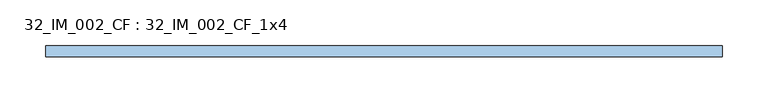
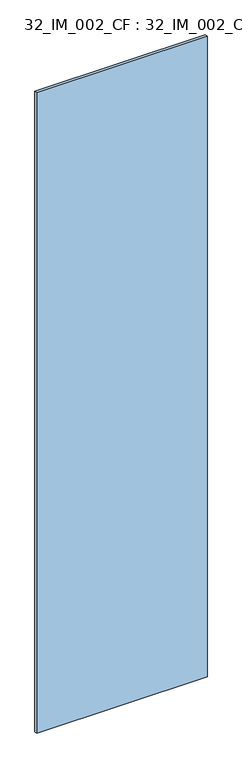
"""IFC4 building model written with IfcOpenShell, lengths in millimetres: window geometry, 32_IM_002_CF : 32_IM_002_CF_1x4."""

from ifc_helpers import new_model, si_unit, origin, origin_with_axes, place, context, project, spatial, polyline, outline, extrude, source, transform, mapped, element, save


def window_32_im_002_cf_32_im_002_cf_1x4_a56874b4(model_context):
    return source(origin(), model_context, "Body", "SweptSolid", [
        extrude(outline(polyline([(371.0, -6.0), (-371.0, -6.0), (-371.0, 6.0), (371.0, 6.0), (371.0, -6.0)])), origin_with_axes(), (0.0, 0.0, 1.0), 2945.0),
    ])


if __name__ == "__main__":
    model = new_model("IFC4")
    model_context = context("Model", 3, world=origin())
    ifc_project = project(units=[si_unit("LENGTHUNIT", "METRE", prefix="MILLI")], contexts=[model_context])
    site = spatial("IfcSite", under=ifc_project)
    building = spatial("IfcBuilding", under=site)
    placement = place(None, origin())
    window_32_im_002_cf_32_im_002_cf_1x4_shape = window_32_im_002_cf_32_im_002_cf_1x4_a56874b4(model_context)
    element("IfcWindow", 1, ObjectType="32_IM_002_CF : 32_IM_002_CF_1x4", at=placement, inside=building, context=model_context, shape_type="MappedRepresentation", body=[
        mapped(window_32_im_002_cf_32_im_002_cf_1x4_shape, transform((0.0, 0.0, 0.0), x_axis=(1.0, 0.0, 0.0), y_axis=(0.0, 1.0, 0.0), z_axis=(0.0, 0.0, 1.0))),
    ])
    save(model, "model.ifc")
